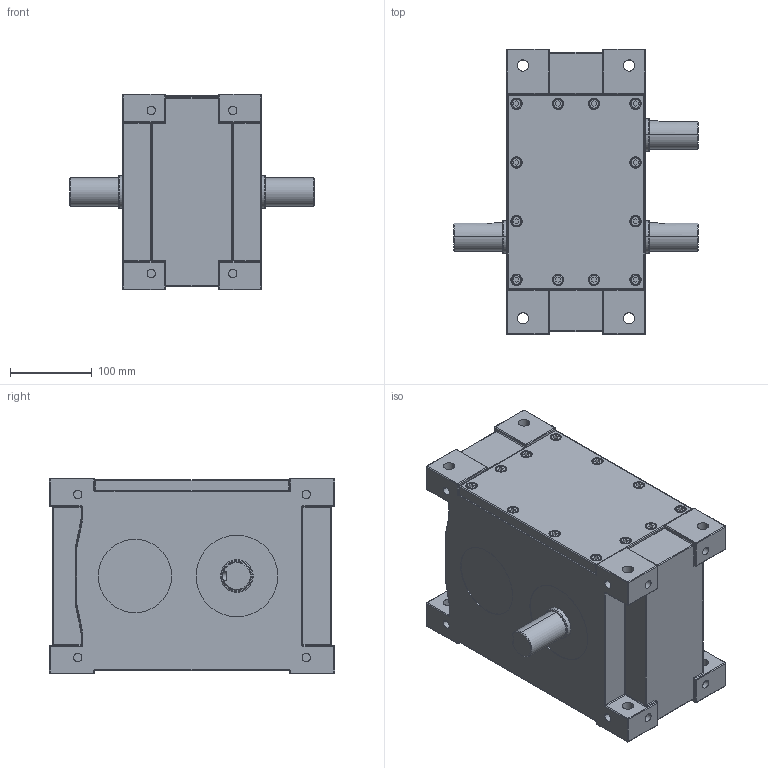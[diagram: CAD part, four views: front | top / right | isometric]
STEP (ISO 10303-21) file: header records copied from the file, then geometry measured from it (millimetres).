
FILE_DESCRIPTION((''),'2;1');
FILE_NAME('P125','2015-01-16T',('松仔'),(''),'PRO/ENGINEER BY PARAMETRIC TECHNOLOGY CORPORATION, 2013430','PRO/ENGINEER BY PARAMETRIC TECHNOLOGY CORPORATION, 2013430','');
FILE_SCHEMA(('CONFIG_CONTROL_DESIGN'));
Length unit declared in the file: millimetre
Products named in the file (1): P125
Bounding box: 300 x 350 x 240 mm (x, y, z)
Volume: 12976022.1 mm3; surface area: 439502.9 mm2
Topology: 1 solids, 13 shells, 734 faces, 1555 edges, 907 vertices
Faces by surface type: cylinder 331, plane 240, sphere 68, torus 57, bspline 35, cone 3
Entity records: 22566 total; most frequent: CARTESIAN_POINT 6560, DIRECTION 3578, ORIENTED_EDGE 3110, EDGE_CURVE 1555, AXIS2_PLACEMENT_3D 1404, VERTEX_POINT 907, EDGE_LOOP 812, VECTOR 770
